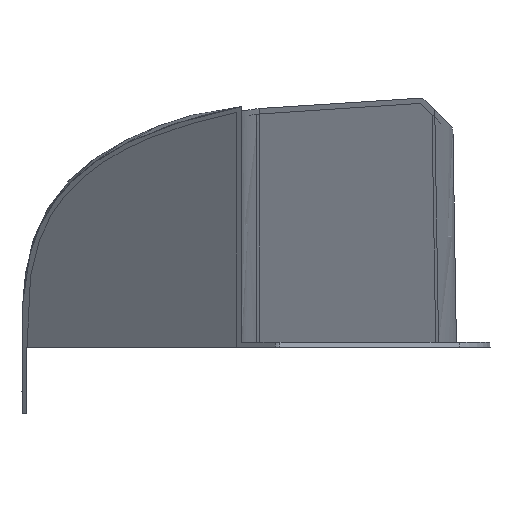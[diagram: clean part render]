
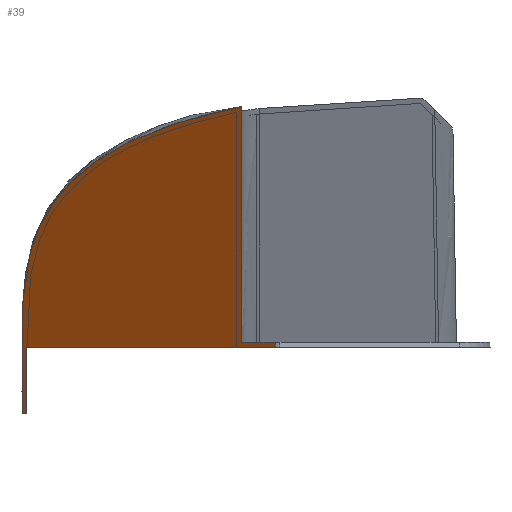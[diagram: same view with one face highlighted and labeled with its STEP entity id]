
A CAD part, left-side view. The second image highlights one B-rep face of the part: STEP entity #39.
In plain terms, the highlighted free-form (B-spline) face has degree [1, 3] with [2, 4] control points.
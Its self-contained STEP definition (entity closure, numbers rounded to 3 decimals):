
#39=ADVANCED_FACE('',(#81),#701,.T.);
#81=FACE_OUTER_BOUND('',#123,.T.);
#123=EDGE_LOOP('',(#252,#253,#254,#255,#256,#257,#258));
#252=ORIENTED_EDGE('',*,*,#427,.T.);
#253=ORIENTED_EDGE('',*,*,#428,.F.);
#254=ORIENTED_EDGE('',*,*,#432,.F.);
#255=ORIENTED_EDGE('',*,*,#431,.F.);
#256=ORIENTED_EDGE('',*,*,#470,.F.);
#257=ORIENTED_EDGE('',*,*,#430,.F.);
#258=ORIENTED_EDGE('',*,*,#429,.F.);
#427=EDGE_CURVE('',#660,#659,#546,.T.);
#428=EDGE_CURVE('',#661,#659,#547,.T.);
#429=EDGE_CURVE('',#660,#662,#548,.T.);
#430=EDGE_CURVE('',#662,#654,#549,.T.);
#431=EDGE_CURVE('',#656,#663,#550,.T.);
#432=EDGE_CURVE('',#663,#661,#551,.T.);
#470=EDGE_CURVE('',#654,#656,#587,.T.);
#546=B_SPLINE_CURVE_WITH_KNOTS('',1,(#11868,#11869),.UNSPECIFIED.,.F.,.F.,
(2,2),(26.,32.),.UNSPECIFIED.);
#547=B_SPLINE_CURVE_WITH_KNOTS('',3,(#11870,#11871,#11872,#11873),
 .UNSPECIFIED.,.F.,.F.,(4,4),(437.005,534.667),
 .UNSPECIFIED.);
#548=B_SPLINE_CURVE_WITH_KNOTS('',3,(#11874,#11875,#11876,#11877,#11878,
#11879,#11880,#11881,#11882,#11883,#11884,#11885,#11886,#11887,#11888,#11889,
#11890,#11891,#11892,#11893,#11894,#11895,#11896,#11897,#11898,#11899,#11900,
#11901,#11902,#11903,#11904,#11905,#11906,#11907,#11908,#11909,#11910,#11911,
#11912),.UNSPECIFIED.,.F.,.F.,(4,3,2,2,2,2,2,2,2,2,2,2,2,2,2,2,2,2,4),(5265.236,
5362.898,5393.642,5424.387,5455.127,5485.868,
5516.613,5531.986,5547.358,5578.111,5593.487,
5608.863,5639.596,5670.329,5731.798,5762.563,
5793.329,5824.098,5854.867),.UNSPECIFIED.);
#549=B_SPLINE_CURVE_WITH_KNOTS('',3,(#11913,#11914,#11915,#11916),
 .UNSPECIFIED.,.F.,.F.,(4,4),(5854.867,6200.435),
 .UNSPECIFIED.);
#550=B_SPLINE_CURVE_WITH_KNOTS('',3,(#11917,#11918,#11919,#11920),
 .UNSPECIFIED.,.F.,.F.,(4,4),(6240.749,6248.074),
 .UNSPECIFIED.);
#551=B_SPLINE_CURVE_WITH_KNOTS('',3,(#11921,#11922,#11923,#11924),
 .UNSPECIFIED.,.F.,.F.,(4,4),(139.015,437.005),
 .UNSPECIFIED.);
#587=B_SPLINE_CURVE_WITH_KNOTS('',3,(#12397,#12398,#12399,#12400),
 .UNSPECIFIED.,.F.,.F.,(4,4),(-9397.322,-9357.008),
 .UNSPECIFIED.);
#654=VERTEX_POINT('',#10396);
#656=VERTEX_POINT('',#10398);
#659=VERTEX_POINT('',#10401);
#660=VERTEX_POINT('',#10402);
#661=VERTEX_POINT('',#10403);
#662=VERTEX_POINT('',#10404);
#663=VERTEX_POINT('',#10405);
#701=B_SPLINE_SURFACE_WITH_KNOTS('',1,3,((#5001,#5002,#5003,#5004),(#5005,
#5006,#5007,#5008)),.UNSPECIFIED.,.F.,.F.,.F.,(2,2),(4,4),(0.,469.005),
(0.,487.826),.UNSPECIFIED.);
#5001=CARTESIAN_POINT('',(66690.282,16835.973,519.984));
#5002=CARTESIAN_POINT('',(66597.011,16835.973,653.183));
#5003=CARTESIAN_POINT('',(66503.74,16835.973,786.382));
#5004=CARTESIAN_POINT('',(66410.469,16835.973,919.582));
#5005=CARTESIAN_POINT('',(66690.282,16366.968,519.984));
#5006=CARTESIAN_POINT('',(66597.011,16366.968,653.183));
#5007=CARTESIAN_POINT('',(66503.74,16366.968,786.382));
#5008=CARTESIAN_POINT('',(66410.469,16366.968,919.582));
#10396=CARTESIAN_POINT('',(66630.064,16546.297,605.984));
#10398=CARTESIAN_POINT('',(66630.064,16505.983,605.984));
#10401=CARTESIAN_POINT('',(66690.282,16803.973,519.984));
#10402=CARTESIAN_POINT('',(66690.282,16809.973,519.984));
#10403=CARTESIAN_POINT('',(66634.263,16803.973,599.983));
#10404=CARTESIAN_POINT('',(66431.847,16546.297,889.051));
#10405=CARTESIAN_POINT('',(66634.263,16505.983,599.983));
#11868=CARTESIAN_POINT('',(66690.282,16809.973,519.984));
#11869=CARTESIAN_POINT('',(66690.282,16803.973,519.984));
#11870=CARTESIAN_POINT('',(66634.263,16803.973,599.983));
#11871=CARTESIAN_POINT('',(66652.936,16803.973,573.316));
#11872=CARTESIAN_POINT('',(66671.609,16803.973,546.65));
#11873=CARTESIAN_POINT('',(66690.282,16803.973,519.984));
#11874=CARTESIAN_POINT('',(66690.282,16809.973,519.984));
#11875=CARTESIAN_POINT('',(66671.609,16809.973,546.65));
#11876=CARTESIAN_POINT('',(66652.936,16809.973,573.316));
#11877=CARTESIAN_POINT('',(66634.263,16809.973,599.983));
#11878=CARTESIAN_POINT('',(66628.384,16809.973,608.379));
#11879=CARTESIAN_POINT('',(66622.505,16809.98,616.775));
#11880=CARTESIAN_POINT('',(66610.747,16809.794,633.567));
#11881=CARTESIAN_POINT('',(66604.871,16809.599,641.958));
#11882=CARTESIAN_POINT('',(66593.121,16808.772,658.738));
#11883=CARTESIAN_POINT('',(66587.253,16808.14,667.118));
#11884=CARTESIAN_POINT('',(66575.545,16806.215,683.838));
#11885=CARTESIAN_POINT('',(66569.713,16804.927,692.167));
#11886=CARTESIAN_POINT('',(66558.119,16801.475,708.723));
#11887=CARTESIAN_POINT('',(66552.372,16799.316,716.931));
#11888=CARTESIAN_POINT('',(66543.86,16795.273,729.087));
#11889=CARTESIAN_POINT('',(66541.049,16793.795,733.101));
#11890=CARTESIAN_POINT('',(66535.47,16790.544,741.068));
#11891=CARTESIAN_POINT('',(66532.715,16788.779,745.003));
#11892=CARTESIAN_POINT('',(66524.53,16783.028,756.691));
#11893=CARTESIAN_POINT('',(66519.223,16778.612,764.27));
#11894=CARTESIAN_POINT('',(66511.532,16771.068,775.254));
#11895=CARTESIAN_POINT('',(66509.023,16768.41,778.837));
#11896=CARTESIAN_POINT('',(66504.103,16762.787,785.864));
#11897=CARTESIAN_POINT('',(66501.704,16759.837,789.289));
#11898=CARTESIAN_POINT('',(66494.67,16750.556,799.335));
#11899=CARTESIAN_POINT('',(66490.219,16743.824,805.691));
#11900=CARTESIAN_POINT('',(66481.851,16729.421,817.64));
#11901=CARTESIAN_POINT('',(66477.947,16721.765,823.216));
#11902=CARTESIAN_POINT('',(66467.,16697.655,838.849));
#11903=CARTESIAN_POINT('',(66460.769,16680.161,847.748));
#11904=CARTESIAN_POINT('',(66452.741,16652.788,859.213));
#11905=CARTESIAN_POINT('',(66450.282,16643.474,862.724));
#11906=CARTESIAN_POINT('',(66445.733,16624.561,869.221));
#11907=CARTESIAN_POINT('',(66443.651,16614.993,872.195));
#11908=CARTESIAN_POINT('',(66439.795,16595.619,877.701));
#11909=CARTESIAN_POINT('',(66438.029,16585.852,880.223));
#11910=CARTESIAN_POINT('',(66434.752,16566.157,884.903));
#11911=CARTESIAN_POINT('',(66433.245,16556.256,887.055));
#11912=CARTESIAN_POINT('',(66431.847,16546.297,889.051));
#11913=CARTESIAN_POINT('',(66431.847,16546.297,889.051));
#11914=CARTESIAN_POINT('',(66497.919,16546.297,794.696));
#11915=CARTESIAN_POINT('',(66563.991,16546.297,700.34));
#11916=CARTESIAN_POINT('',(66630.064,16546.297,605.984));
#11917=CARTESIAN_POINT('',(66630.064,16505.983,605.984));
#11918=CARTESIAN_POINT('',(66631.464,16505.983,603.983));
#11919=CARTESIAN_POINT('',(66632.864,16505.983,601.983));
#11920=CARTESIAN_POINT('',(66634.263,16505.983,599.983));
#11921=CARTESIAN_POINT('',(66634.263,16505.983,599.983));
#11922=CARTESIAN_POINT('',(66634.263,16605.313,599.983));
#11923=CARTESIAN_POINT('',(66634.263,16704.643,599.983));
#11924=CARTESIAN_POINT('',(66634.263,16803.973,599.983));
#12397=CARTESIAN_POINT('',(66630.064,16546.297,605.984));
#12398=CARTESIAN_POINT('',(66630.064,16532.859,605.984));
#12399=CARTESIAN_POINT('',(66630.064,16519.421,605.984));
#12400=CARTESIAN_POINT('',(66630.064,16505.983,605.984));
